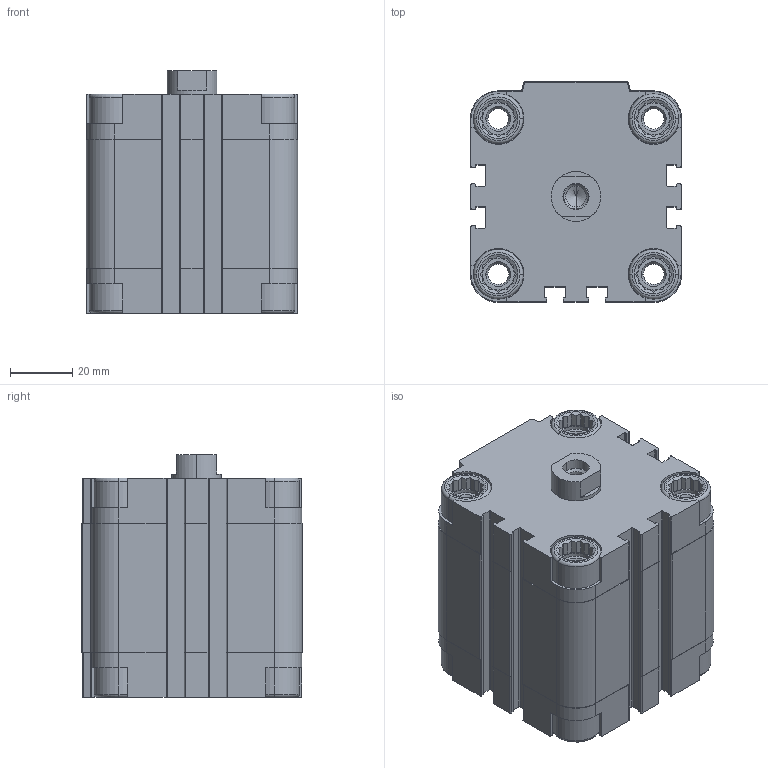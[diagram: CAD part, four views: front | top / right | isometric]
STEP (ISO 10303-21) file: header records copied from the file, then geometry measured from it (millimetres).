
FILE_DESCRIPTION (( 'STEP AP203' ), '1' );
FILE_NAME ('CDVU50-25F.STEP', '2020-03-30T15:00:11', ( '' ), ( '' ), 'SwSTEP 2.0', 'SolidWorks 2019', '' );
FILE_SCHEMA (( 'CONFIG_CONTROL_DESIGN' ));
Length unit declared in the file: millimetre
Products named in the file (1): CDVU50-25F
Bounding box: 68 x 71 x 78 mm (x, y, z)
Volume: 248078 mm3; surface area: 63011.4 mm2
Topology: 2 solids, 2 shells, 709 faces, 1894 edges, 1223 vertices
Faces by surface type: plane 417, cylinder 230, cone 46, torus 16
Entity records: 22245 total; most frequent: CARTESIAN_POINT 4397, ORIENTED_EDGE 3776, DIRECTION 3652, EDGE_CURVE 1888, AXIS2_PLACEMENT_3D 1246, VERTEX_POINT 1223, LINE 1160, VECTOR 1160
